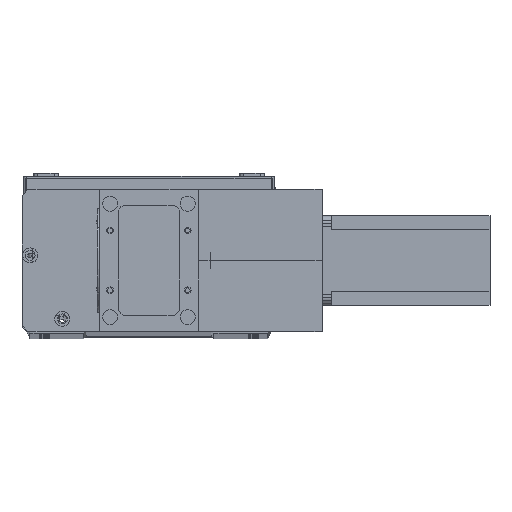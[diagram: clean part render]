
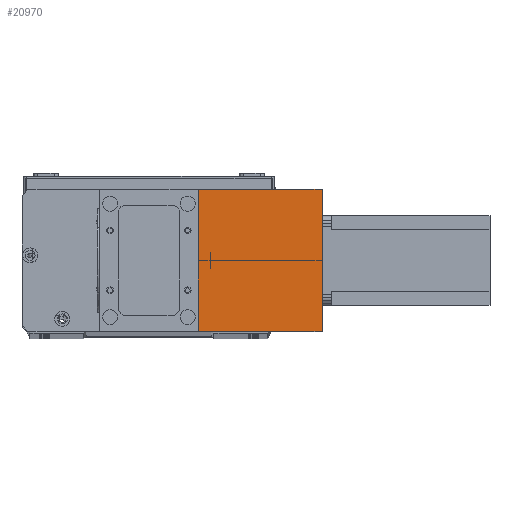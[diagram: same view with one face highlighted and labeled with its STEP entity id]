
A CAD part, top view. The second image highlights one B-rep face of the part: STEP entity #20970.
In plain terms, the highlighted planar face has unit normal (0, 0, 1) as drawn and (1, 0, 0) by its records, which use the part's own axes.
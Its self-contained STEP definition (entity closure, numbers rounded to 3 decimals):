
#290 = DIRECTION ( 'NONE',  ( 0., 0., 1. ) ) ;
#1249 = ORIENTED_EDGE ( 'NONE', *, *, #27695, .F. ) ;
#2398 = LINE ( 'NONE', #24639, #14186 ) ;
#4980 = ORIENTED_EDGE ( 'NONE', *, *, #13924, .F. ) ;
#5049 = VECTOR ( 'NONE', #9033, 1000. ) ;
#7070 = EDGE_CURVE ( 'NONE', #13712, #15784, #26721, .T. ) ;
#7202 = ORIENTED_EDGE ( 'NONE', *, *, #7070, .T. ) ;
#9033 = DIRECTION ( 'NONE',  ( 0., 1., 0. ) ) ;
#10554 = VERTEX_POINT ( 'NONE', #17222 ) ;
#10864 = DIRECTION ( 'NONE',  ( 0., 1., 0. ) ) ;
#12064 = CARTESIAN_POINT ( 'NONE',  ( 82., 0., 83. ) ) ;
#12909 = VERTEX_POINT ( 'NONE', #17165 ) ;
#13712 = VERTEX_POINT ( 'NONE', #13714 ) ;
#13714 = CARTESIAN_POINT ( 'NONE',  ( 82., 0., 83. ) ) ;
#13924 = EDGE_CURVE ( 'NONE', #13712, #10554, #14153, .T. ) ;
#14153 = LINE ( 'NONE', #24549, #26270 ) ;
#14186 = VECTOR ( 'NONE', #22748, 1000. ) ;
#14369 = AXIS2_PLACEMENT_3D ( 'NONE', #12064, #14400, #290 ) ;
#14400 = DIRECTION ( 'NONE',  ( -1., 0., 0. ) ) ;
#15784 = VERTEX_POINT ( 'NONE', #27938 ) ;
#16458 = FACE_OUTER_BOUND ( 'NONE', #27303, .T. ) ;
#17165 = CARTESIAN_POINT ( 'NONE',  ( 82., 95., 0. ) ) ;
#17222 = CARTESIAN_POINT ( 'NONE',  ( 82., 95., 83. ) ) ;
#19545 = ORIENTED_EDGE ( 'NONE', *, *, #23091, .T. ) ;
#20540 = CARTESIAN_POINT ( 'NONE',  ( 82., 0., 0. ) ) ;
#20680 = VECTOR ( 'NONE', #27513, 1000. ) ;
#20970 = ADVANCED_FACE ( 'NONE', ( #16458 ), #25746, .F. ) ;
#22748 = DIRECTION ( 'NONE',  ( 0., 0., -1. ) ) ;
#22774 = LINE ( 'NONE', #20540, #5049 ) ;
#23091 = EDGE_CURVE ( 'NONE', #15784, #12909, #22774, .T. ) ;
#24549 = CARTESIAN_POINT ( 'NONE',  ( 82., 0., 83. ) ) ;
#24639 = CARTESIAN_POINT ( 'NONE',  ( 82., 95., 83. ) ) ;
#25746 = PLANE ( 'NONE',  #14369 ) ;
#26270 = VECTOR ( 'NONE', #10864, 1000. ) ;
#26721 = LINE ( 'NONE', #27522, #20680 ) ;
#27303 = EDGE_LOOP ( 'NONE', ( #19545, #1249, #4980, #7202 ) ) ;
#27513 = DIRECTION ( 'NONE',  ( 0., 0., -1. ) ) ;
#27522 = CARTESIAN_POINT ( 'NONE',  ( 82., 0., 83. ) ) ;
#27695 = EDGE_CURVE ( 'NONE', #10554, #12909, #2398, .T. ) ;
#27938 = CARTESIAN_POINT ( 'NONE',  ( 82., 0., 0. ) ) ;
